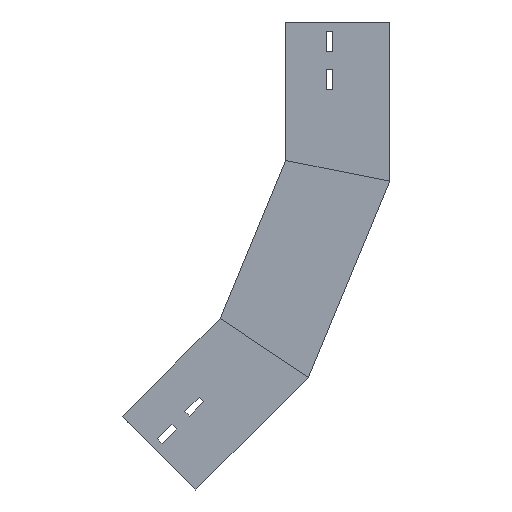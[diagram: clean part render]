
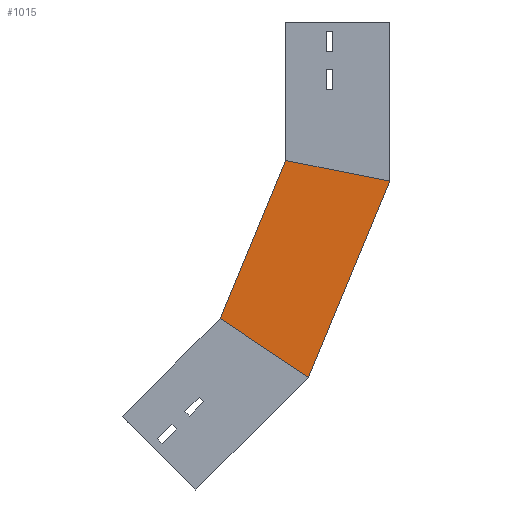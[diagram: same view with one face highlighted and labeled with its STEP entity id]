
A CAD part, left-side view. The second image highlights one B-rep face of the part: STEP entity #1015.
In plain terms, the highlighted planar face has unit normal (-1, 0, 0) as drawn and (1, 0, 0) by its records, which use the part's own axes.
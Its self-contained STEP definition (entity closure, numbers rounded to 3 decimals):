
#78 = FACE_OUTER_BOUND ( 'NONE', #1251, .T. ) ;
#94 = VERTEX_POINT ( 'NONE', #568 ) ;
#140 = LINE ( 'NONE', #1121, #836 ) ;
#160 = DIRECTION ( 'NONE',  ( 0., -0.981, -0.195 ) ) ;
#165 = EDGE_CURVE ( 'NONE', #390, #94, #178, .T. ) ;
#178 = LINE ( 'NONE', #369, #278 ) ;
#244 = VECTOR ( 'NONE', #1487, 1000. ) ;
#275 = DIRECTION ( 'NONE',  ( 0., 0., 1. ) ) ;
#278 = VECTOR ( 'NONE', #160, 1000. ) ;
#369 = CARTESIAN_POINT ( 'NONE',  ( 0., 32.93, -165.55 ) ) ;
#382 = VECTOR ( 'NONE', #1136, 1000. ) ;
#390 = VERTEX_POINT ( 'NONE', #1404 ) ;
#417 = ORIENTED_EDGE ( 'NONE', *, *, #678, .F. ) ;
#461 = VERTEX_POINT ( 'NONE', #1099 ) ;
#550 = ORIENTED_EDGE ( 'NONE', *, *, #165, .T. ) ;
#554 = EDGE_CURVE ( 'NONE', #390, #1314, #897, .T. ) ;
#568 = CARTESIAN_POINT ( 'NONE',  ( 0., 0., -172.1 ) ) ;
#648 = CARTESIAN_POINT ( 'NONE',  ( 0., 0., -172.1 ) ) ;
#678 = EDGE_CURVE ( 'NONE', #1314, #461, #140, .T. ) ;
#739 = EDGE_CURVE ( 'NONE', #94, #461, #1113, .T. ) ;
#746 = CARTESIAN_POINT ( 'NONE',  ( 0., 103.936, -129.048 ) ) ;
#798 = CARTESIAN_POINT ( 'NONE',  ( 0., 0., -172.1 ) ) ;
#836 = VECTOR ( 'NONE', #1193, 1000. ) ;
#842 = PLANE ( 'NONE',  #1102 ) ;
#897 = LINE ( 'NONE', #746, #244 ) ;
#997 = DIRECTION ( 'NONE',  ( -1., 0., 0. ) ) ;
#1015 = ADVANCED_FACE ( 'NONE', ( #78 ), #842, .F. ) ;
#1099 = CARTESIAN_POINT ( 'NONE',  ( 0., 88.017, -384.592 ) ) ;
#1102 = AXIS2_PLACEMENT_3D ( 'NONE', #648, #997, #275 ) ;
#1113 = LINE ( 'NONE', #798, #382 ) ;
#1121 = CARTESIAN_POINT ( 'NONE',  ( 0., 125.326, -359.663 ) ) ;
#1136 = DIRECTION ( 'NONE',  ( 0., 0.383, -0.924 ) ) ;
#1173 = CARTESIAN_POINT ( 'NONE',  ( 0., 183.39, -320.866 ) ) ;
#1193 = DIRECTION ( 'NONE',  ( 0., -0.831, -0.556 ) ) ;
#1251 = EDGE_LOOP ( 'NONE', ( #1394, #550, #1421, #417 ) ) ;
#1314 = VERTEX_POINT ( 'NONE', #1173 ) ;
#1394 = ORIENTED_EDGE ( 'NONE', *, *, #554, .F. ) ;
#1404 = CARTESIAN_POINT ( 'NONE',  ( 0., 112.5, -149.722 ) ) ;
#1421 = ORIENTED_EDGE ( 'NONE', *, *, #739, .T. ) ;
#1487 = DIRECTION ( 'NONE',  ( 0., 0.383, -0.924 ) ) ;
